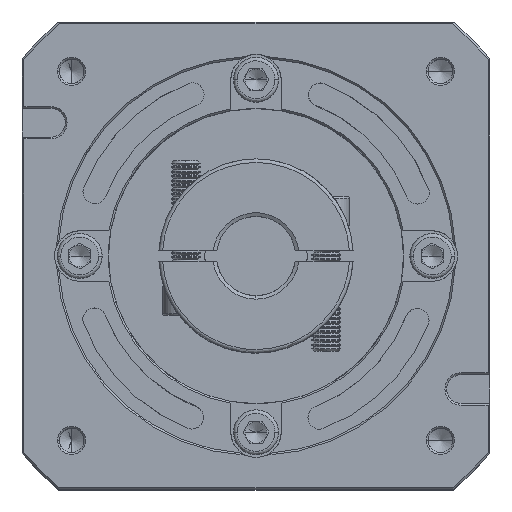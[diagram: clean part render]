
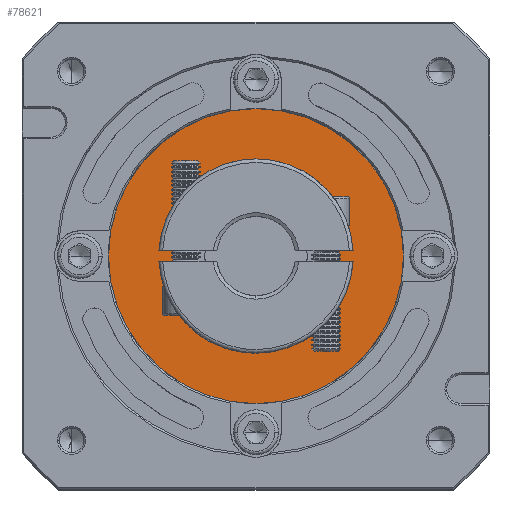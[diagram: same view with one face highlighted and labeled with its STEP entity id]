
A CAD part, top view. The second image highlights one B-rep face of the part: STEP entity #78621.
In plain terms, the highlighted planar face has unit normal (0, 0, 1).
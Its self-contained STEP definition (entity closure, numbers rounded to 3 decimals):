
#641 = EDGE_LOOP ( 'NONE', ( #121691, #72301 ) ) ;
#2431 = VERTEX_POINT ( 'NONE', #87404 ) ;
#3647 = DIRECTION ( 'NONE',  ( 0., 0., 1. ) ) ;
#4327 = CARTESIAN_POINT ( 'NONE',  ( 155.239, -58.217, -49.563 ) ) ;
#7295 = DIRECTION ( 'NONE',  ( 1., 0., 0. ) ) ;
#9653 = DIRECTION ( 'NONE',  ( 0., 0., -1. ) ) ;
#22187 = DIRECTION ( 'NONE',  ( 1., 0., 0. ) ) ;
#23509 = EDGE_LOOP ( 'NONE', ( #55931, #113600 ) ) ;
#24747 = CIRCLE ( 'NONE', #25368, 20. ) ;
#25368 = AXIS2_PLACEMENT_3D ( 'NONE', #26142, #96986, #36299 ) ;
#26142 = CARTESIAN_POINT ( 'NONE',  ( 114.239, -58.217, -49.563 ) ) ;
#26870 = DIRECTION ( 'NONE',  ( 1., 0., 0. ) ) ;
#29412 = CARTESIAN_POINT ( 'NONE',  ( 114.239, -58.217, -49.563 ) ) ;
#29966 = AXIS2_PLACEMENT_3D ( 'NONE', #71679, #54836, #26870 ) ;
#36299 = DIRECTION ( 'NONE',  ( 1., 0., 0. ) ) ;
#37247 = DIRECTION ( 'NONE',  ( 0., 0., 1. ) ) ;
#41563 = EDGE_CURVE ( 'NONE', #97119, #2431, #103522, .T. ) ;
#43250 = CIRCLE ( 'NONE', #93293, 20. ) ;
#50825 = VERTEX_POINT ( 'NONE', #107134 ) ;
#54836 = DIRECTION ( 'NONE',  ( 0., 0., 1. ) ) ;
#55931 = ORIENTED_EDGE ( 'NONE', *, *, #41563, .T. ) ;
#66916 = CARTESIAN_POINT ( 'NONE',  ( 114.239, -58.217, -49.563 ) ) ;
#71679 = CARTESIAN_POINT ( 'NONE',  ( 114.239, -58.217, -49.563 ) ) ;
#72301 = ORIENTED_EDGE ( 'NONE', *, *, #99874, .T. ) ;
#72585 = CARTESIAN_POINT ( 'NONE',  ( 114.239, -58.217, -49.563 ) ) ;
#75131 = AXIS2_PLACEMENT_3D ( 'NONE', #72585, #3647, #22187 ) ;
#77769 = CARTESIAN_POINT ( 'NONE',  ( 94.239, -58.217, -49.563 ) ) ;
#78621 = ADVANCED_FACE ( 'NONE', ( #99568, #93221 ), #99077, .T. ) ;
#87404 = CARTESIAN_POINT ( 'NONE',  ( 73.239, -58.217, -49.563 ) ) ;
#92219 = CIRCLE ( 'NONE', #75131, 41. ) ;
#93221 = FACE_BOUND ( 'NONE', #641, .T. ) ;
#93293 = AXIS2_PLACEMENT_3D ( 'NONE', #29412, #9653, #121034 ) ;
#93702 = EDGE_CURVE ( 'NONE', #50825, #124263, #43250, .T. ) ;
#96986 = DIRECTION ( 'NONE',  ( 0., 0., -1. ) ) ;
#97119 = VERTEX_POINT ( 'NONE', #4327 ) ;
#98087 = EDGE_CURVE ( 'NONE', #2431, #97119, #92219, .T. ) ;
#99077 = PLANE ( 'NONE',  #29966 ) ;
#99568 = FACE_OUTER_BOUND ( 'NONE', #23509, .T. ) ;
#99874 = EDGE_CURVE ( 'NONE', #124263, #50825, #24747, .T. ) ;
#103522 = CIRCLE ( 'NONE', #106151, 41. ) ;
#106151 = AXIS2_PLACEMENT_3D ( 'NONE', #66916, #37247, #7295 ) ;
#107134 = CARTESIAN_POINT ( 'NONE',  ( 134.239, -58.217, -49.563 ) ) ;
#113600 = ORIENTED_EDGE ( 'NONE', *, *, #98087, .T. ) ;
#121034 = DIRECTION ( 'NONE',  ( 1., 0., 0. ) ) ;
#121691 = ORIENTED_EDGE ( 'NONE', *, *, #93702, .T. ) ;
#124263 = VERTEX_POINT ( 'NONE', #77769 ) ;
